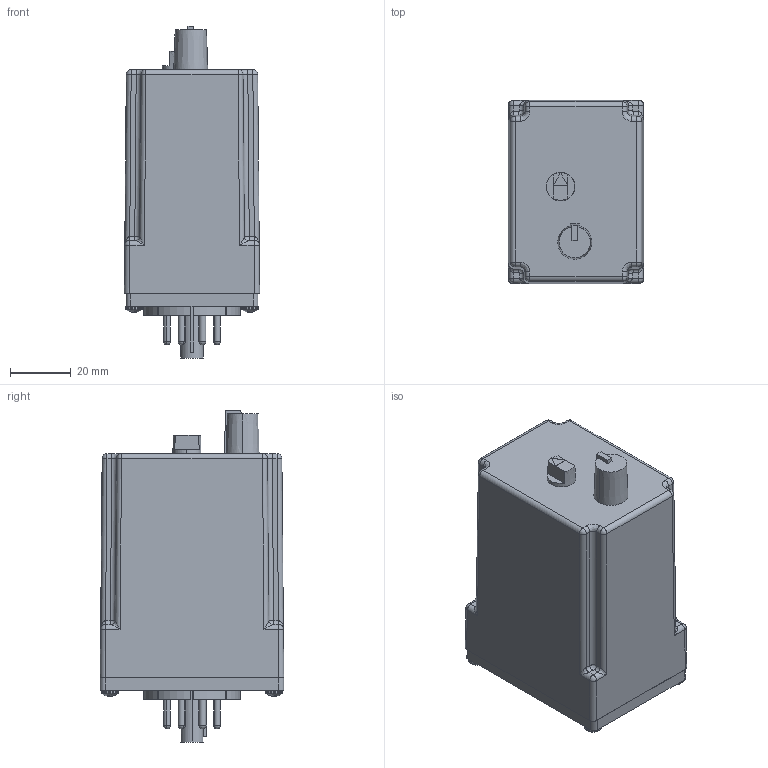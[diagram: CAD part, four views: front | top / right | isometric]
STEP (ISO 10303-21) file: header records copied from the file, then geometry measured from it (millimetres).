
FILE_DESCRIPTION (( 'STEP AP214' ), '1' );
FILE_NAME ('TR-6 Single.STEP', '2019-05-21T00:28:13', ( '' ), ( '' ), 'SwSTEP 2.0', 'SolidWorks 2019', '' );
FILE_SCHEMA (( 'AUTOMOTIVE_DESIGN' ));
Length unit declared in the file: millimetre
Products named in the file (1): TR-6 Single
Bounding box: 44.45 x 60.33 x 109.09 mm (x, y, z)
Volume: 201973.1 mm3; surface area: 29697.4 mm2
Topology: 16 solids, 16 shells, 702 faces, 1849 edges, 1176 vertices
Faces by surface type: cylinder 280, plane 235, bspline 114, cone 45, sphere 28
Entity records: 32577 total; most frequent: CARTESIAN_POINT 16622, ORIENTED_EDGE 3602, DIRECTION 2664, EDGE_CURVE 1801, VERTEX_POINT 1160, AXIS2_PLACEMENT_3D 932, VECTOR 800, LINE 800
